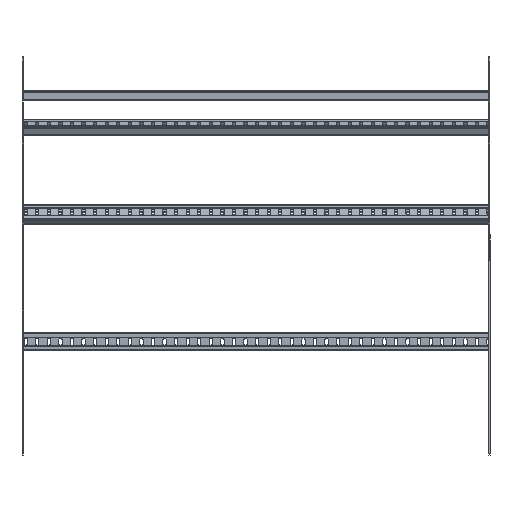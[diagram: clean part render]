
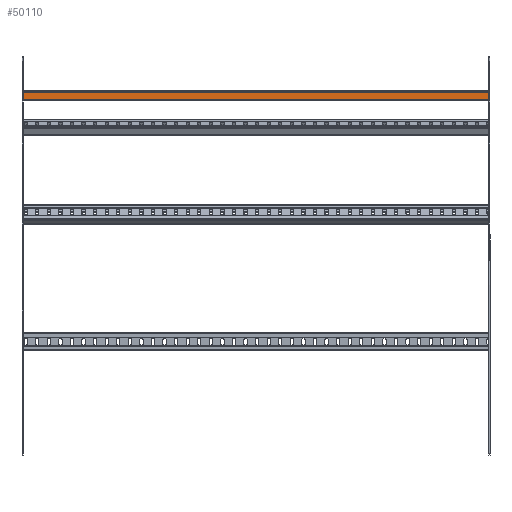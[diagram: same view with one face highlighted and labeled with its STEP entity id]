
A CAD part, left-side view. The second image highlights one B-rep face of the part: STEP entity #50110.
In plain terms, the highlighted planar face has unit normal (-1, 0, 0).
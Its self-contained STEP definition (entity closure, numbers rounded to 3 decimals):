
#49720=CARTESIAN_POINT('',(-1.194,-4.267,-100.));
#49730=DIRECTION('',(-1.,0.,0.));
#49740=DIRECTION('',(0.,1.,0.));
#49750=AXIS2_PLACEMENT_3D('',#49720,#49730,#49740);
#49760=PLANE('',#49750);
#49770=CARTESIAN_POINT('',(-1.194,0.,930.));
#49780=DIRECTION('',(0.,-1.,0.));
#49790=VECTOR('',#49780,1.);
#49800=LINE('',#49770,#49790);
#49810=CARTESIAN_POINT('',(-1.194,14.733,930.));
#49820=VERTEX_POINT('',#49810);
#49830=CARTESIAN_POINT('',(-1.194,-1.267,930.));
#49840=VERTEX_POINT('',#49830);
#49850=EDGE_CURVE('',#49820,#49840,#49800,.T.);
#49860=ORIENTED_EDGE('',*,*,#49850,.F.);
#49870=CARTESIAN_POINT('',(-1.194,-1.267,-100.));
#49880=DIRECTION('',(0.,0.,1.));
#49890=VECTOR('',#49880,1.);
#49900=LINE('',#49870,#49890);
#49910=CARTESIAN_POINT('',(-1.194,-1.267,-75.));
#49920=VERTEX_POINT('',#49910);
#49930=EDGE_CURVE('',#49920,#49840,#49900,.T.);
#49940=ORIENTED_EDGE('',*,*,#49930,.T.);
#49950=CARTESIAN_POINT('',(-1.194,17.733,-75.));
#49960=DIRECTION('',(0.,-1.,0.));
#49970=VECTOR('',#49960,1.);
#49980=LINE('',#49950,#49970);
#49990=CARTESIAN_POINT('',(-1.194,14.733,-75.));
#50000=VERTEX_POINT('',#49990);
#50010=EDGE_CURVE('',#50000,#49920,#49980,.T.);
#50020=ORIENTED_EDGE('',*,*,#50010,.T.);
#50030=CARTESIAN_POINT('',(-1.194,14.733,0.));
#50040=DIRECTION('',(0.,0.,1.));
#50050=VECTOR('',#50040,1.);
#50060=LINE('',#50030,#50050);
#50070=EDGE_CURVE('',#50000,#49820,#50060,.T.);
#50080=ORIENTED_EDGE('',*,*,#50070,.F.);
#50090=EDGE_LOOP('',(#50080,#50020,#49940,#49860));
#50100=FACE_OUTER_BOUND('',#50090,.T.);
#50110=ADVANCED_FACE('',(#50100),#49760,.T.);
